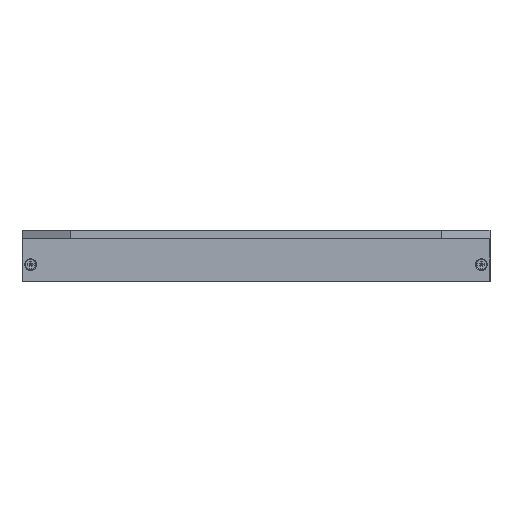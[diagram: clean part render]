
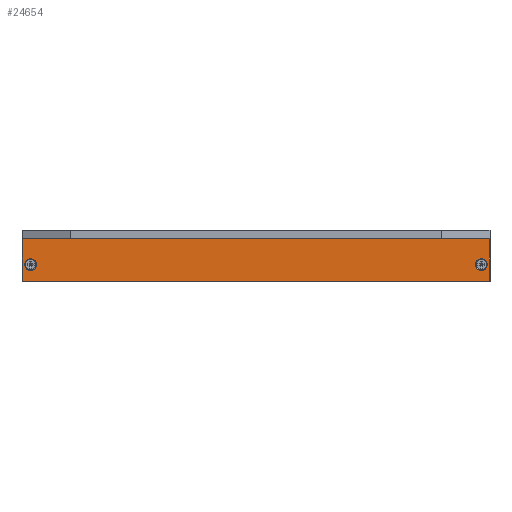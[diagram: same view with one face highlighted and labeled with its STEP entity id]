
A CAD part, front view. The second image highlights one B-rep face of the part: STEP entity #24654.
In plain terms, the highlighted planar face has unit normal (0, -1, 0).
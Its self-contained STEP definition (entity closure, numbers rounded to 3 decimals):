
#5168=DIRECTION('',(-1.,0.,0.));
#5169=VECTOR('',#5168,162.6);
#5170=CARTESIAN_POINT('',(81.3,-81.5,0.));
#5171=LINE('',#5170,#5169);
#5384=CARTESIAN_POINT('',(-78.5,-81.5,-9.));
#5385=DIRECTION('',(0.,1.,0.));
#5386=DIRECTION('',(0.,0.,1.));
#5387=AXIS2_PLACEMENT_3D('',#5384,#5385,#5386);
#5389=CARTESIAN_POINT('',(-78.5,-81.5,-9.));
#5390=DIRECTION('',(0.,1.,0.));
#5391=DIRECTION('',(0.,0.,-1.));
#5392=AXIS2_PLACEMENT_3D('',#5389,#5390,#5391);
#5394=CARTESIAN_POINT('',(78.5,-81.5,-9.));
#5395=DIRECTION('',(0.,1.,0.));
#5396=DIRECTION('',(0.,0.,-1.));
#5397=AXIS2_PLACEMENT_3D('',#5394,#5395,#5396);
#5399=CARTESIAN_POINT('',(78.5,-81.5,-9.));
#5400=DIRECTION('',(0.,1.,0.));
#5401=DIRECTION('',(0.,0.,1.));
#5402=AXIS2_PLACEMENT_3D('',#5399,#5400,#5401);
#5404=DIRECTION('',(1.,0.,0.));
#5405=VECTOR('',#5404,162.6);
#5406=CARTESIAN_POINT('',(-81.3,-81.5,-14.8));
#5407=LINE('',#5406,#5405);
#5408=DIRECTION('',(0.,0.,-1.));
#5409=VECTOR('',#5408,14.8);
#5410=CARTESIAN_POINT('',(-81.3,-81.5,0.));
#5411=LINE('',#5410,#5409);
#6405=DIRECTION('',(0.,0.,-1.));
#6406=VECTOR('',#6405,14.8);
#6407=CARTESIAN_POINT('',(81.3,-81.5,0.));
#6408=LINE('',#6407,#6406);
#13577=CARTESIAN_POINT('',(-81.3,-81.5,-14.8));
#13578=VERTEX_POINT('',#13577);
#13585=CARTESIAN_POINT('',(81.3,-81.5,-14.8));
#13586=VERTEX_POINT('',#13585);
#13587=CARTESIAN_POINT('',(78.5,-81.5,-7.));
#13588=CARTESIAN_POINT('',(78.5,-81.5,-11.));
#13589=VERTEX_POINT('',#13587);
#13590=VERTEX_POINT('',#13588);
#13591=CARTESIAN_POINT('',(-78.5,-81.5,-11.));
#13592=CARTESIAN_POINT('',(-78.5,-81.5,-7.));
#13593=VERTEX_POINT('',#13591);
#13594=VERTEX_POINT('',#13592);
#16311=CARTESIAN_POINT('',(-81.3,-81.5,0.));
#16313=VERTEX_POINT('',#16311);
#16314=CARTESIAN_POINT('',(81.3,-81.5,0.));
#16315=VERTEX_POINT('',#16314);
#24629=CARTESIAN_POINT('',(-81.5,-81.5,-15.));
#24630=DIRECTION('',(0.,-1.,0.));
#24631=DIRECTION('',(0.,0.,1.));
#24632=AXIS2_PLACEMENT_3D('',#24629,#24630,#24631);
#24633=PLANE('',#24632);
#24635=ORIENTED_EDGE('',*,*,#24634,.T.);
#24637=ORIENTED_EDGE('',*,*,#24636,.F.);
#24638=ORIENTED_EDGE('',*,*,#24619,.F.);
#24639=ORIENTED_EDGE('',*,*,#24296,.F.);
#24640=EDGE_LOOP('',(#24635,#24637,#24638,#24639));
#24641=FACE_OUTER_BOUND('',#24640,.F.);
#24643=ORIENTED_EDGE('',*,*,#24642,.F.);
#24645=ORIENTED_EDGE('',*,*,#24644,.F.);
#24646=EDGE_LOOP('',(#24643,#24645));
#24647=FACE_BOUND('',#24646,.F.);
#24649=ORIENTED_EDGE('',*,*,#24648,.F.);
#24651=ORIENTED_EDGE('',*,*,#24650,.F.);
#24652=EDGE_LOOP('',(#24649,#24651));
#24653=FACE_BOUND('',#24652,.F.);
#5388=CIRCLE('',#5387,2.);
#5393=CIRCLE('',#5392,2.);
#5398=CIRCLE('',#5397,2.);
#5403=CIRCLE('',#5402,2.);
#24296=EDGE_CURVE('',#16315,#16313,#5171,.T.);
#24619=EDGE_CURVE('',#16313,#13578,#5411,.T.);
#24634=EDGE_CURVE('',#16315,#13586,#6408,.T.);
#24636=EDGE_CURVE('',#13578,#13586,#5407,.T.);
#24642=EDGE_CURVE('',#13590,#13589,#5398,.T.);
#24644=EDGE_CURVE('',#13589,#13590,#5403,.T.);
#24648=EDGE_CURVE('',#13594,#13593,#5388,.T.);
#24650=EDGE_CURVE('',#13593,#13594,#5393,.T.);
#24654=ADVANCED_FACE('',(#24641,#24647,#24653),#24633,.T.);
